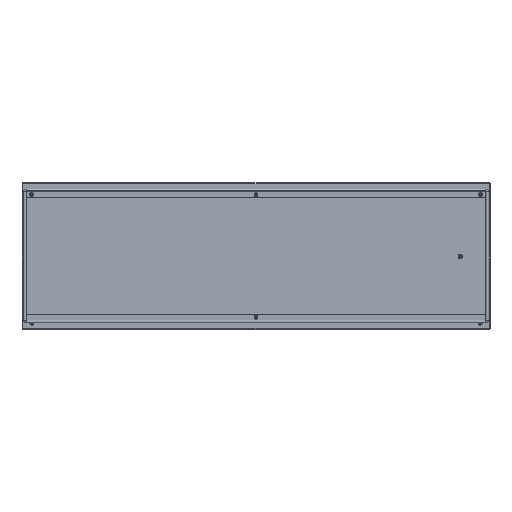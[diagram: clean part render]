
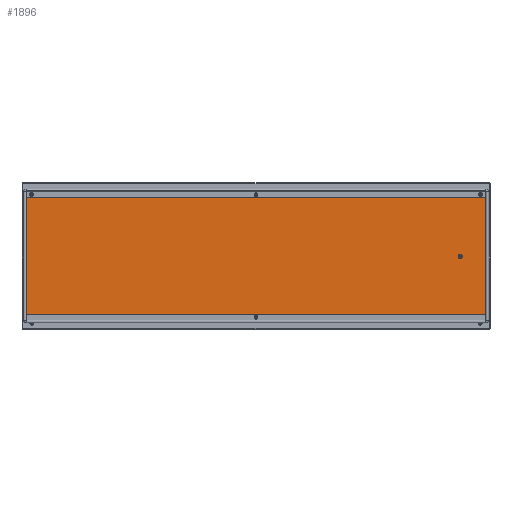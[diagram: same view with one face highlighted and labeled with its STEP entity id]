
A CAD part, top view. The second image highlights one B-rep face of the part: STEP entity #1896.
In plain terms, the highlighted planar face has unit normal (0, 0, 1).
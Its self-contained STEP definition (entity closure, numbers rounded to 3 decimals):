
#192 = DIRECTION ( 'NONE',  ( -1., 0., 0. ) ) ;
#193 = DIRECTION ( 'NONE',  ( 0., 0., -1. ) ) ;
#200 = CARTESIAN_POINT ( 'NONE',  ( 698.5, -1.5, 0. ) ) ;
#802 = VERTEX_POINT ( 'NONE', #3684 ) ;
#803 = VERTEX_POINT ( 'NONE', #3683 ) ;
#804 = VERTEX_POINT ( 'NONE', #3682 ) ;
#807 = VERTEX_POINT ( 'NONE', #3679 ) ;
#808 = VERTEX_POINT ( 'NONE', #3678 ) ;
#811 = VERTEX_POINT ( 'NONE', #3675 ) ;
#812 = VERTEX_POINT ( 'NONE', #3674 ) ;
#813 = VERTEX_POINT ( 'NONE', #3673 ) ;
#860 = VERTEX_POINT ( 'NONE', #3626 ) ;
#861 = VERTEX_POINT ( 'NONE', #3625 ) ;
#1070 = VECTOR ( 'NONE', #2992, 1000. ) ;
#1072 = VECTOR ( 'NONE', #2998, 1000. ) ;
#1073 = VECTOR ( 'NONE', #3004, 1000. ) ;
#1074 = AXIS2_PLACEMENT_3D ( 'NONE', #2989, #2988, #2987 ) ;
#1075 = VECTOR ( 'NONE', #3007, 1000. ) ;
#1076 = AXIS2_PLACEMENT_3D ( 'NONE', #3010, #3003, #3002 ) ;
#1077 = AXIS2_PLACEMENT_3D ( 'NONE', #3013, #3012, #3011 ) ;
#1103 = AXIS2_PLACEMENT_3D ( 'NONE', #2995, #2991, #2990 ) ;
#1105 = AXIS2_PLACEMENT_3D ( 'NONE', #3001, #2997, #2996 ) ;
#1217 = AXIS2_PLACEMENT_3D ( 'NONE', #3236, #3235, #3234 ) ;
#1227 = FACE_OUTER_BOUND ( 'NONE', #3889, .T. ) ;
#1229 = FACE_BOUND ( 'NONE', #3890, .T. ) ;
#1546 = CIRCLE ( 'NONE', #4945, 4. ) ;
#1775 = CIRCLE ( 'NONE', #1074, 4. ) ;
#1776 = CIRCLE ( 'NONE', #1103, 3. ) ;
#1777 = CIRCLE ( 'NONE', #1105, 3. ) ;
#1778 = CIRCLE ( 'NONE', #1076, 3. ) ;
#1779 = CIRCLE ( 'NONE', #1077, 3. ) ;
#1896 = ADVANCED_FACE ( 'NONE', ( #1227, #1229 ), #3237, .T. ) ;
#2987 = DIRECTION ( 'NONE',  ( -1., 0., 0. ) ) ;
#2988 = DIRECTION ( 'NONE',  ( 0., 0., -1. ) ) ;
#2989 = CARTESIAN_POINT ( 'NONE',  ( 698.5, -1.5, 0. ) ) ;
#2990 = DIRECTION ( 'NONE',  ( 1., 0., 0. ) ) ;
#2991 = DIRECTION ( 'NONE',  ( 0., 0., 1. ) ) ;
#2992 = DIRECTION ( 'NONE',  ( -1., 0., 0. ) ) ;
#2993 = CARTESIAN_POINT ( 'NONE',  ( 800., 248.5, 0. ) ) ;
#2994 = LINE ( 'NONE', #2993, #1070 ) ;
#2995 = CARTESIAN_POINT ( 'NONE',  ( -795.5, 245.5, 0. ) ) ;
#2996 = DIRECTION ( 'NONE',  ( 1., 0., 0. ) ) ;
#2997 = DIRECTION ( 'NONE',  ( 0., 0., 1. ) ) ;
#2998 = DIRECTION ( 'NONE',  ( 0., 1., 0. ) ) ;
#2999 = CARTESIAN_POINT ( 'NONE',  ( 798.5, -250., 0. ) ) ;
#3000 = LINE ( 'NONE', #2999, #1072 ) ;
#3001 = CARTESIAN_POINT ( 'NONE',  ( 795.5, 245.5, 0. ) ) ;
#3002 = DIRECTION ( 'NONE',  ( 1., 0., 0. ) ) ;
#3003 = DIRECTION ( 'NONE',  ( 0., 0., 1. ) ) ;
#3004 = DIRECTION ( 'NONE',  ( 1., 0., 0. ) ) ;
#3005 = CARTESIAN_POINT ( 'NONE',  ( 800., -248.5, 0. ) ) ;
#3006 = LINE ( 'NONE', #3005, #1073 ) ;
#3007 = DIRECTION ( 'NONE',  ( 0., -1., 0. ) ) ;
#3008 = CARTESIAN_POINT ( 'NONE',  ( -798.5, -250., 0. ) ) ;
#3009 = LINE ( 'NONE', #3008, #1075 ) ;
#3010 = CARTESIAN_POINT ( 'NONE',  ( 795.5, -245.5, 0. ) ) ;
#3011 = DIRECTION ( 'NONE',  ( 1., 0., 0. ) ) ;
#3012 = DIRECTION ( 'NONE',  ( 0., 0., 1. ) ) ;
#3013 = CARTESIAN_POINT ( 'NONE',  ( -795.5, -245.5, 0. ) ) ;
#3234 = DIRECTION ( 'NONE',  ( 1., 0., 0. ) ) ;
#3235 = DIRECTION ( 'NONE',  ( 0., 0., 1. ) ) ;
#3236 = CARTESIAN_POINT ( 'NONE',  ( 0., 0., 0. ) ) ;
#3237 = PLANE ( 'NONE',  #1217 ) ;
#3625 = CARTESIAN_POINT ( 'NONE',  ( 694.5, -1.5, 0. ) ) ;
#3626 = CARTESIAN_POINT ( 'NONE',  ( 702.5, -1.5, 0. ) ) ;
#3673 = CARTESIAN_POINT ( 'NONE',  ( -795.5, -248.5, 0. ) ) ;
#3674 = CARTESIAN_POINT ( 'NONE',  ( -798.5, -245.5, 0. ) ) ;
#3675 = CARTESIAN_POINT ( 'NONE',  ( -798.5, 245.5, 0. ) ) ;
#3678 = CARTESIAN_POINT ( 'NONE',  ( 798.5, -245.5, 0. ) ) ;
#3679 = CARTESIAN_POINT ( 'NONE',  ( 795.5, -248.5, 0. ) ) ;
#3682 = CARTESIAN_POINT ( 'NONE',  ( -795.5, 248.5, 0. ) ) ;
#3683 = CARTESIAN_POINT ( 'NONE',  ( 795.5, 248.5, 0. ) ) ;
#3684 = CARTESIAN_POINT ( 'NONE',  ( 798.5, 245.5, 0. ) ) ;
#3889 = EDGE_LOOP ( 'NONE', ( #4033, #4035, #4034, #4036, #4037, #4038, #4039, #4040 ) ) ;
#3890 = EDGE_LOOP ( 'NONE', ( #4042, #4044 ) ) ;
#4033 = ORIENTED_EDGE ( 'NONE', *, *, #4268, .T. ) ;
#4034 = ORIENTED_EDGE ( 'NONE', *, *, #4269, .T. ) ;
#4035 = ORIENTED_EDGE ( 'NONE', *, *, #4267, .T. ) ;
#4036 = ORIENTED_EDGE ( 'NONE', *, *, #4270, .T. ) ;
#4037 = ORIENTED_EDGE ( 'NONE', *, *, #4271, .T. ) ;
#4038 = ORIENTED_EDGE ( 'NONE', *, *, #4272, .T. ) ;
#4039 = ORIENTED_EDGE ( 'NONE', *, *, #4273, .T. ) ;
#4040 = ORIENTED_EDGE ( 'NONE', *, *, #4274, .T. ) ;
#4042 = ORIENTED_EDGE ( 'NONE', *, *, #4275, .T. ) ;
#4044 = ORIENTED_EDGE ( 'NONE', *, *, #4704, .T. ) ;
#4267 = EDGE_CURVE ( 'NONE', #812, #813, #1779, .T. ) ;
#4268 = EDGE_CURVE ( 'NONE', #811, #812, #3009, .T. ) ;
#4269 = EDGE_CURVE ( 'NONE', #813, #807, #3006, .T. ) ;
#4270 = EDGE_CURVE ( 'NONE', #807, #808, #1778, .T. ) ;
#4271 = EDGE_CURVE ( 'NONE', #808, #802, #3000, .T. ) ;
#4272 = EDGE_CURVE ( 'NONE', #802, #803, #1777, .T. ) ;
#4273 = EDGE_CURVE ( 'NONE', #803, #804, #2994, .T. ) ;
#4274 = EDGE_CURVE ( 'NONE', #804, #811, #1776, .T. ) ;
#4275 = EDGE_CURVE ( 'NONE', #860, #861, #1775, .T. ) ;
#4704 = EDGE_CURVE ( 'NONE', #861, #860, #1546, .T. ) ;
#4945 = AXIS2_PLACEMENT_3D ( 'NONE', #200, #193, #192 ) ;
